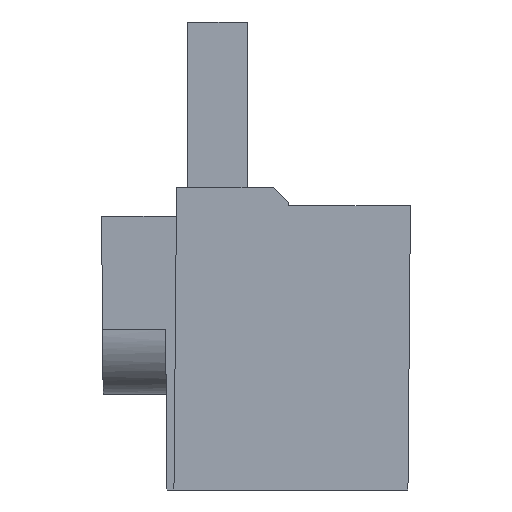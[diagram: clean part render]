
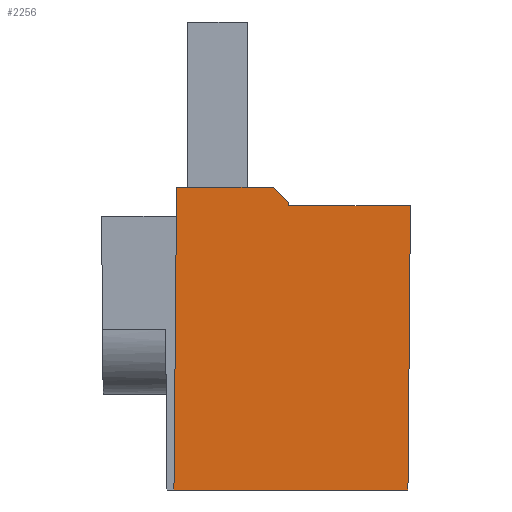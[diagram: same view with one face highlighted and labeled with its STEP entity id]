
A CAD part, left-side view. The second image highlights one B-rep face of the part: STEP entity #2256.
In plain terms, the highlighted planar face has unit normal (-1, 0, -0.009).
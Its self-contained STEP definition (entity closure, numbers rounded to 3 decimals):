
#403=DIRECTION('',(0.,-1.,0.));
#404=VECTOR('',#403,12.922);
#405=CARTESIAN_POINT('',(-11.684,29.471,1.9));
#406=LINE('',#405,#404);
#410=DIRECTION('',(0.006,-0.707,-0.707));
#411=VECTOR('',#410,2.879);
#412=CARTESIAN_POINT('',(-11.684,16.549,1.9));
#413=LINE('',#412,#411);
#417=DIRECTION('',(0.009,-0.017,-1.));
#418=VECTOR('',#417,0.465);
#419=CARTESIAN_POINT('',(-11.666,14.513,
-0.136));
#420=LINE('',#419,#418);
#424=DIRECTION('',(0.,-1.,0.));
#425=VECTOR('',#424,16.312);
#426=CARTESIAN_POINT('',(-11.662,14.505,-0.6));
#427=LINE('',#426,#425);
#431=DIRECTION('',(0.009,0.009,-1.));
#432=VECTOR('',#431,38.003);
#433=CARTESIAN_POINT('',(-11.662,-1.807,-0.6));
#434=LINE('',#433,#432);
#438=DIRECTION('',(0.,-1.,0.));
#439=VECTOR('',#438,31.3);
#440=CARTESIAN_POINT('',(-11.331,29.825,-38.6));
#441=LINE('',#440,#439);
#1097=DIRECTION('',(0.009,0.009,-1.));
#1098=VECTOR('',#1097,40.503);
#1099=CARTESIAN_POINT('',(-11.684,29.471,1.9));
#1100=LINE('',#1099,#1098);
#2029=CARTESIAN_POINT('',(-11.331,-1.475,-38.6));
#2031=VERTEX_POINT('',#2029);
#2040=CARTESIAN_POINT('',(-11.662,14.505,-0.6));
#2041=CARTESIAN_POINT('',(-11.662,-1.807,-0.6));
#2042=VERTEX_POINT('',#2040);
#2043=VERTEX_POINT('',#2041);
#2044=CARTESIAN_POINT('',(-11.666,14.513,
-0.136));
#2045=VERTEX_POINT('',#2044);
#2046=CARTESIAN_POINT('',(-11.684,16.549,1.9));
#2047=VERTEX_POINT('',#2046);
#2048=CARTESIAN_POINT('',(-11.684,29.471,1.9));
#2049=CARTESIAN_POINT('',(-11.331,29.825,-38.6));
#2050=VERTEX_POINT('',#2048);
#2051=VERTEX_POINT('',#2049);
#2238=CARTESIAN_POINT('',(-11.65,29.505,-2.));
#2239=DIRECTION('',(-1.,0.,-0.009));
#2240=DIRECTION('',(-0.009,0.,1.));
#2241=AXIS2_PLACEMENT_3D('',#2238,#2239,#2240);
#2242=PLANE('',#2241);
#2244=ORIENTED_EDGE('',*,*,#2243,.F.);
#2246=ORIENTED_EDGE('',*,*,#2245,.F.);
#2247=ORIENTED_EDGE('',*,*,#2194,.T.);
#2249=ORIENTED_EDGE('',*,*,#2248,.T.);
#2250=ORIENTED_EDGE('',*,*,#2230,.T.);
#2251=ORIENTED_EDGE('',*,*,#2152,.T.);
#2253=ORIENTED_EDGE('',*,*,#2252,.T.);
#2254=EDGE_LOOP('',(#2244,#2246,#2247,#2249,#2250,#2251,#2253));
#2255=FACE_OUTER_BOUND('',#2254,.F.);
#2152=EDGE_CURVE('',#2042,#2043,#427,.T.);
#2194=EDGE_CURVE('',#2050,#2047,#406,.T.);
#2230=EDGE_CURVE('',#2045,#2042,#420,.T.);
#2243=EDGE_CURVE('',#2051,#2031,#441,.T.);
#2245=EDGE_CURVE('',#2050,#2051,#1100,.T.);
#2248=EDGE_CURVE('',#2047,#2045,#413,.T.);
#2252=EDGE_CURVE('',#2043,#2031,#434,.T.);
#2256=ADVANCED_FACE('',(#2255),#2242,.T.);
